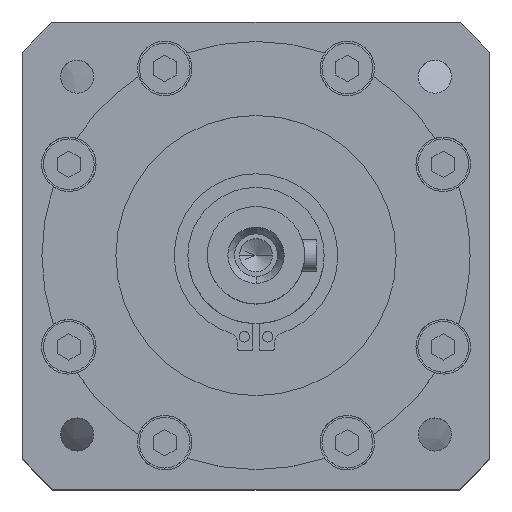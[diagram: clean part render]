
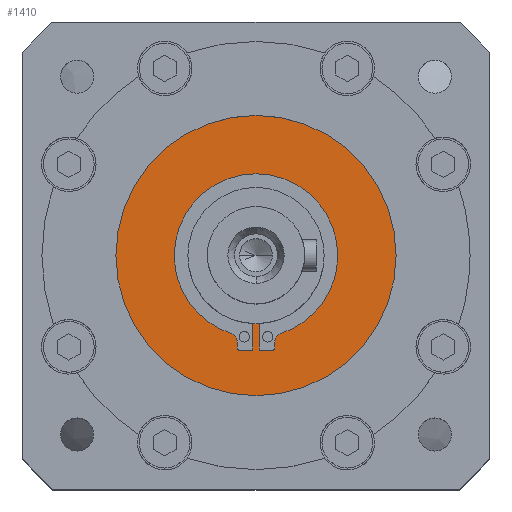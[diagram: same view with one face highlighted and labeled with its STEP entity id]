
A CAD part, top view. The second image highlights one B-rep face of the part: STEP entity #1410.
In plain terms, the highlighted planar face has unit normal (0, 0, 1).
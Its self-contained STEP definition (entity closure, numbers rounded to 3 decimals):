
#59 = VERTEX_POINT ( 'NONE', #262 ) ;
#262 = CARTESIAN_POINT ( 'NONE',  ( 4.85, -22.321, -2.7 ) ) ;
#877 = CIRCLE ( 'NONE', #45494, 21. ) ;
#1410 = ADVANCED_FACE ( 'NONE', ( #31253, #21891 ), #19132, .F. ) ;
#2680 = AXIS2_PLACEMENT_3D ( 'NONE', #40419, #19365, #43956 ) ;
#2829 = VERTEX_POINT ( 'NONE', #33776 ) ;
#3187 = VECTOR ( 'NONE', #35706, 1000. ) ;
#3329 = VECTOR ( 'NONE', #8059, 1000. ) ;
#3518 = DIRECTION ( 'NONE',  ( -1., 0., 0. ) ) ;
#4175 = CARTESIAN_POINT ( 'NONE',  ( 0.85, 0., -2.7 ) ) ;
#4230 = DIRECTION ( 'NONE',  ( -1., 0., 0. ) ) ;
#4290 = DIRECTION ( 'NONE',  ( 0., 0., 1. ) ) ;
#4336 = CARTESIAN_POINT ( 'NONE',  ( -4.35, -23.779, -2.7 ) ) ;
#5157 = CARTESIAN_POINT ( 'NONE',  ( 6.568, -19.946, -2.7 ) ) ;
#5624 = CARTESIAN_POINT ( 'NONE',  ( -4.85, 0., -2.7 ) ) ;
#5957 = CIRCLE ( 'NONE', #16655, 21. ) ;
#6364 = DIRECTION ( 'NONE',  ( 0., 1., 0. ) ) ;
#6365 = EDGE_CURVE ( 'NONE', #46041, #44111, #43512, .T. ) ;
#6392 = ORIENTED_EDGE ( 'NONE', *, *, #29455, .F. ) ;
#7174 = CARTESIAN_POINT ( 'NONE',  ( 0., 0., -2.7 ) ) ;
#7907 = CARTESIAN_POINT ( 'NONE',  ( 0., -24.279, -2.7 ) ) ;
#8017 = ORIENTED_EDGE ( 'NONE', *, *, #31362, .F. ) ;
#8059 = DIRECTION ( 'NONE',  ( 1., 0., 0. ) ) ;
#8085 = VERTEX_POINT ( 'NONE', #21605 ) ;
#8971 = AXIS2_PLACEMENT_3D ( 'NONE', #18662, #18434, #18383 ) ;
#9241 = AXIS2_PLACEMENT_3D ( 'NONE', #4336, #4290, #4230 ) ;
#9319 = CARTESIAN_POINT ( 'NONE',  ( -4.85, -23.779, -2.7 ) ) ;
#9665 = ORIENTED_EDGE ( 'NONE', *, *, #6365, .F. ) ;
#9902 = CIRCLE ( 'NONE', #39620, 17.5 ) ;
#10049 = EDGE_LOOP ( 'NONE', ( #43542, #18623 ) ) ;
#10499 = VECTOR ( 'NONE', #6364, 1000. ) ;
#10745 = DIRECTION ( 'NONE',  ( -1., 0., 0. ) ) ;
#11444 = ORIENTED_EDGE ( 'NONE', *, *, #19066, .F. ) ;
#11544 = DIRECTION ( 'NONE',  ( 0., -1., 0. ) ) ;
#11592 = ORIENTED_EDGE ( 'NONE', *, *, #19383, .F. ) ;
#11629 = AXIS2_PLACEMENT_3D ( 'NONE', #19568, #44138, #23135 ) ;
#12967 = LINE ( 'NONE', #7907, #3329 ) ;
#13583 = LINE ( 'NONE', #5624, #20878 ) ;
#14028 = VERTEX_POINT ( 'NONE', #24354 ) ;
#14452 = DIRECTION ( 'NONE',  ( 0., 0., -1. ) ) ;
#14554 = CARTESIAN_POINT ( 'NONE',  ( 4.85, 0., -2.7 ) ) ;
#15190 = EDGE_CURVE ( 'NONE', #26055, #31078, #43883, .T. ) ;
#15553 = EDGE_CURVE ( 'NONE', #15997, #40396, #33495, .T. ) ;
#15905 = EDGE_CURVE ( 'NONE', #29933, #17907, #23620, .T. ) ;
#15997 = VERTEX_POINT ( 'NONE', #25535 ) ;
#16091 = VERTEX_POINT ( 'NONE', #25997 ) ;
#16186 = AXIS2_PLACEMENT_3D ( 'NONE', #46064, #25062, #3518 ) ;
#16655 = AXIS2_PLACEMENT_3D ( 'NONE', #38535, #17482, #42082 ) ;
#17482 = DIRECTION ( 'NONE',  ( 0., 0., 1. ) ) ;
#17506 = DIRECTION ( 'NONE',  ( 0., 0., 1. ) ) ;
#17683 = CARTESIAN_POINT ( 'NONE',  ( 0., 0., -2.7 ) ) ;
#17777 = LINE ( 'NONE', #4175, #27262 ) ;
#17872 = CIRCLE ( 'NONE', #44376, 36. ) ;
#17893 = CARTESIAN_POINT ( 'NONE',  ( 0., 0., -2.7 ) ) ;
#17907 = VERTEX_POINT ( 'NONE', #40287 ) ;
#18209 = EDGE_CURVE ( 'NONE', #59, #23446, #42625, .T. ) ;
#18383 = DIRECTION ( 'NONE',  ( -1., 0., 0. ) ) ;
#18387 = CARTESIAN_POINT ( 'NONE',  ( 21., 0., -2.7 ) ) ;
#18434 = DIRECTION ( 'NONE',  ( 0., 0., -1. ) ) ;
#18571 = CARTESIAN_POINT ( 'NONE',  ( 0., -24.279, -2.7 ) ) ;
#18623 = ORIENTED_EDGE ( 'NONE', *, *, #15905, .T. ) ;
#18662 = CARTESIAN_POINT ( 'NONE',  ( 0., 0., -2.7 ) ) ;
#19066 = EDGE_CURVE ( 'NONE', #40396, #40890, #19525, .T. ) ;
#19132 = PLANE ( 'NONE',  #8971 ) ;
#19365 = DIRECTION ( 'NONE',  ( 0., 0., 1. ) ) ;
#19383 = EDGE_CURVE ( 'NONE', #24022, #2829, #877, .T. ) ;
#19478 = EDGE_CURVE ( 'NONE', #16091, #15997, #17777, .T. ) ;
#19525 = CIRCLE ( 'NONE', #2680, 0.5 ) ;
#19568 = CARTESIAN_POINT ( 'NONE',  ( -7.35, -22.321, -2.7 ) ) ;
#19910 = AXIS2_PLACEMENT_3D ( 'NONE', #35606, #14452, #39127 ) ;
#20782 = ORIENTED_EDGE ( 'NONE', *, *, #18209, .F. ) ;
#20878 = VECTOR ( 'NONE', #34109, 1000. ) ;
#21264 = DIRECTION ( 'NONE',  ( -1., 0., 0. ) ) ;
#21476 = DIRECTION ( 'NONE',  ( 1., 0., 0. ) ) ;
#21503 = CIRCLE ( 'NONE', #16186, 21. ) ;
#21605 = CARTESIAN_POINT ( 'NONE',  ( -0.85, -24.279, -2.7 ) ) ;
#21891 = FACE_BOUND ( 'NONE', #27048, .T. ) ;
#22032 = CARTESIAN_POINT ( 'NONE',  ( -6.568, -19.946, -2.7 ) ) ;
#23135 = DIRECTION ( 'NONE',  ( -1., 0., 0. ) ) ;
#23446 = VERTEX_POINT ( 'NONE', #5157 ) ;
#23620 = CIRCLE ( 'NONE', #41606, 36. ) ;
#24022 = VERTEX_POINT ( 'NONE', #18387 ) ;
#24354 = CARTESIAN_POINT ( 'NONE',  ( -0.85, -17.479, -2.7 ) ) ;
#24495 = EDGE_CURVE ( 'NONE', #40890, #59, #41038, .T. ) ;
#24847 = EDGE_CURVE ( 'NONE', #17907, #29933, #17872, .T. ) ;
#25062 = DIRECTION ( 'NONE',  ( 0., 0., 1. ) ) ;
#25444 = ORIENTED_EDGE ( 'NONE', *, *, #19478, .F. ) ;
#25535 = CARTESIAN_POINT ( 'NONE',  ( 0.85, -24.279, -2.7 ) ) ;
#25997 = CARTESIAN_POINT ( 'NONE',  ( 0.85, -17.479, -2.7 ) ) ;
#26055 = VERTEX_POINT ( 'NONE', #22032 ) ;
#27048 = EDGE_LOOP ( 'NONE', ( #9665, #27381, #39295, #38354, #11592, #6392, #20782, #41838, #11444, #28226, #25444, #41428, #27489, #8017 ) ) ;
#27262 = VECTOR ( 'NONE', #11544, 1000. ) ;
#27381 = ORIENTED_EDGE ( 'NONE', *, *, #45446, .F. ) ;
#27489 = ORIENTED_EDGE ( 'NONE', *, *, #33613, .F. ) ;
#28226 = ORIENTED_EDGE ( 'NONE', *, *, #15553, .F. ) ;
#28591 = CARTESIAN_POINT ( 'NONE',  ( -4.35, -24.279, -2.7 ) ) ;
#29455 = EDGE_CURVE ( 'NONE', #23446, #24022, #21503, .T. ) ;
#29523 = LINE ( 'NONE', #31309, #10499 ) ;
#29933 = VERTEX_POINT ( 'NONE', #41840 ) ;
#31078 = VERTEX_POINT ( 'NONE', #34063 ) ;
#31253 = FACE_OUTER_BOUND ( 'NONE', #10049, .T. ) ;
#31309 = CARTESIAN_POINT ( 'NONE',  ( -0.85, 0., -2.7 ) ) ;
#31362 = EDGE_CURVE ( 'NONE', #44111, #8085, #12967, .T. ) ;
#32080 = DIRECTION ( 'NONE',  ( 0., 0., 1. ) ) ;
#32388 = VECTOR ( 'NONE', #36080, 1000. ) ;
#32972 = CARTESIAN_POINT ( 'NONE',  ( 4.35, -24.279, -2.7 ) ) ;
#33495 = LINE ( 'NONE', #18571, #32388 ) ;
#33613 = EDGE_CURVE ( 'NONE', #8085, #14028, #29523, .T. ) ;
#33776 = CARTESIAN_POINT ( 'NONE',  ( -21., 0., -2.7 ) ) ;
#34063 = CARTESIAN_POINT ( 'NONE',  ( -4.85, -22.321, -2.7 ) ) ;
#34109 = DIRECTION ( 'NONE',  ( 0., -1., 0. ) ) ;
#35606 = CARTESIAN_POINT ( 'NONE',  ( 7.35, -22.321, -2.7 ) ) ;
#35620 = EDGE_CURVE ( 'NONE', #14028, #16091, #9902, .T. ) ;
#35706 = DIRECTION ( 'NONE',  ( 0., 1., 0. ) ) ;
#36080 = DIRECTION ( 'NONE',  ( 1., 0., 0. ) ) ;
#36095 = EDGE_CURVE ( 'NONE', #2829, #26055, #5957, .T. ) ;
#38354 = ORIENTED_EDGE ( 'NONE', *, *, #36095, .F. ) ;
#38535 = CARTESIAN_POINT ( 'NONE',  ( 0., 0., -2.7 ) ) ;
#38571 = CARTESIAN_POINT ( 'NONE',  ( 0., 0., -2.7 ) ) ;
#39127 = DIRECTION ( 'NONE',  ( -1., 0., 0. ) ) ;
#39295 = ORIENTED_EDGE ( 'NONE', *, *, #15190, .F. ) ;
#39620 = AXIS2_PLACEMENT_3D ( 'NONE', #17683, #42291, #21264 ) ;
#40287 = CARTESIAN_POINT ( 'NONE',  ( 36., 0., -2.7 ) ) ;
#40396 = VERTEX_POINT ( 'NONE', #32972 ) ;
#40419 = CARTESIAN_POINT ( 'NONE',  ( 4.35, -23.779, -2.7 ) ) ;
#40890 = VERTEX_POINT ( 'NONE', #41351 ) ;
#41038 = LINE ( 'NONE', #14554, #3187 ) ;
#41351 = CARTESIAN_POINT ( 'NONE',  ( 4.85, -23.779, -2.7 ) ) ;
#41428 = ORIENTED_EDGE ( 'NONE', *, *, #35620, .F. ) ;
#41606 = AXIS2_PLACEMENT_3D ( 'NONE', #17893, #42500, #21476 ) ;
#41838 = ORIENTED_EDGE ( 'NONE', *, *, #24495, .F. ) ;
#41840 = CARTESIAN_POINT ( 'NONE',  ( -36., 0., -2.7 ) ) ;
#42082 = DIRECTION ( 'NONE',  ( -1., 0., 0. ) ) ;
#42113 = DIRECTION ( 'NONE',  ( 1., 0., 0. ) ) ;
#42291 = DIRECTION ( 'NONE',  ( 0., 0., 1. ) ) ;
#42500 = DIRECTION ( 'NONE',  ( 0., 0., 1. ) ) ;
#42625 = CIRCLE ( 'NONE', #19910, 2.5 ) ;
#43512 = CIRCLE ( 'NONE', #9241, 0.5 ) ;
#43542 = ORIENTED_EDGE ( 'NONE', *, *, #24847, .T. ) ;
#43883 = CIRCLE ( 'NONE', #11629, 2.5 ) ;
#43956 = DIRECTION ( 'NONE',  ( -1., 0., 0. ) ) ;
#44111 = VERTEX_POINT ( 'NONE', #28591 ) ;
#44138 = DIRECTION ( 'NONE',  ( 0., 0., -1. ) ) ;
#44376 = AXIS2_PLACEMENT_3D ( 'NONE', #38571, #17506, #42113 ) ;
#45446 = EDGE_CURVE ( 'NONE', #31078, #46041, #13583, .T. ) ;
#45494 = AXIS2_PLACEMENT_3D ( 'NONE', #7174, #32080, #10745 ) ;
#46041 = VERTEX_POINT ( 'NONE', #9319 ) ;
#46064 = CARTESIAN_POINT ( 'NONE',  ( 0., 0., -2.7 ) ) ;
